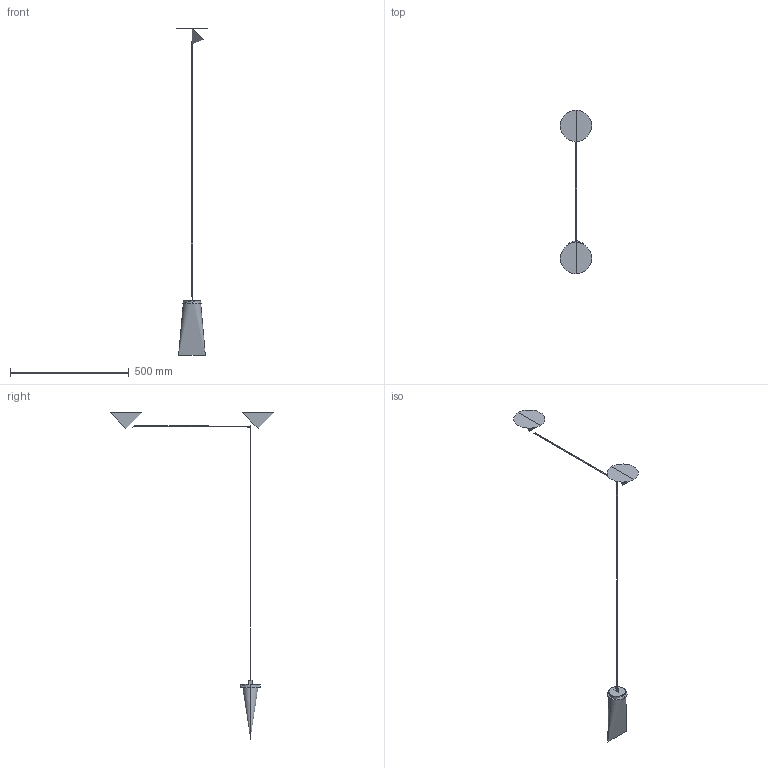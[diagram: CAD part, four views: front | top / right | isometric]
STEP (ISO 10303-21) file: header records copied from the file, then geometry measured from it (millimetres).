
FILE_DESCRIPTION(/* description */ (''),/* implementation_level */ '2;1');
FILE_NAME(/* name */ 'aggregato decentrato sferico d25',/* time_stamp */ '2016-05-16T10:25:28+02:00',/* author */ (''),/* organization */ (''),/* preprocessor_version */ 'ST-DEVELOPER v10',/* originating_system */ '',/* authorisation */ '');
FILE_SCHEMA (('CONFIG_CONTROL_DESIGN'));
Length unit declared in the file: millimetre
Products named in the file (1): 1
Bounding box: 131.4 x 687.42 x 1372.8 mm (x, y, z)
Surface area: 340233.1 mm2 (no closed solid volume)
Topology: 0 solids, 15 shells, 33 faces, 97 edges, 73 vertices
Faces by surface type: bspline 22, plane 11
Entity records: 1429 total; most frequent: CARTESIAN_POINT 878, ORIENTED_EDGE 120, EDGE_CURVE 84, VERTEX_POINT 65, ADVANCED_FACE 33, FACE_OUTER_BOUND 33, EDGE_LOOP 33, DIRECTION 20
